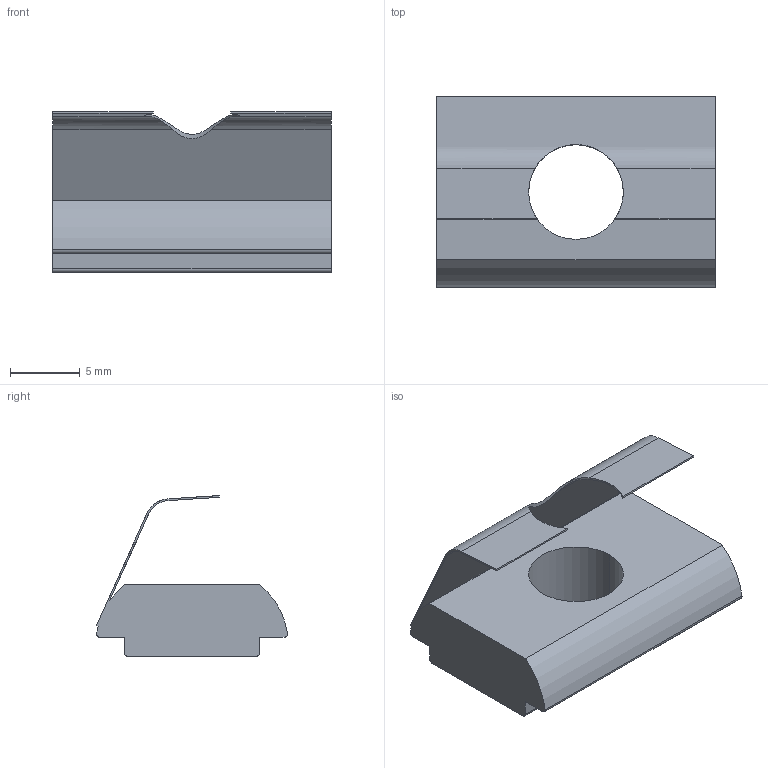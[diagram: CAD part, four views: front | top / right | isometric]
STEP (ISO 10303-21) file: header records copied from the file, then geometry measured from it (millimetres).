
FILE_DESCRIPTION((''),'2;1');
FILE_NAME('205508','2023-02-28T',('jenni.wallner'),(''),'PRO/ENGINEER BY PARAMETRIC TECHNOLOGY CORPORATION, 2012420','PRO/ENGINEER BY PARAMETRIC TECHNOLOGY CORPORATION, 2012420','');
FILE_SCHEMA(('CONFIG_CONTROL_DESIGN'));
Length unit declared in the file: inch
Products named in the file (1): 205508
Bounding box: 20 x 13.73 x 11.56 mm (x, y, z)
Volume: 1046.6 mm3; surface area: 1288.3 mm2
Topology: 1 solids, 1 shells, 33 faces, 94 edges, 63 vertices
Faces by surface type: plane 17, cylinder 16
Entity records: 1166 total; most frequent: CARTESIAN_POINT 265, ORIENTED_EDGE 188, DIRECTION 167, EDGE_CURVE 94, VERTEX_POINT 63, AXIS2_PLACEMENT_3D 56, VECTOR 55, LINE 55
